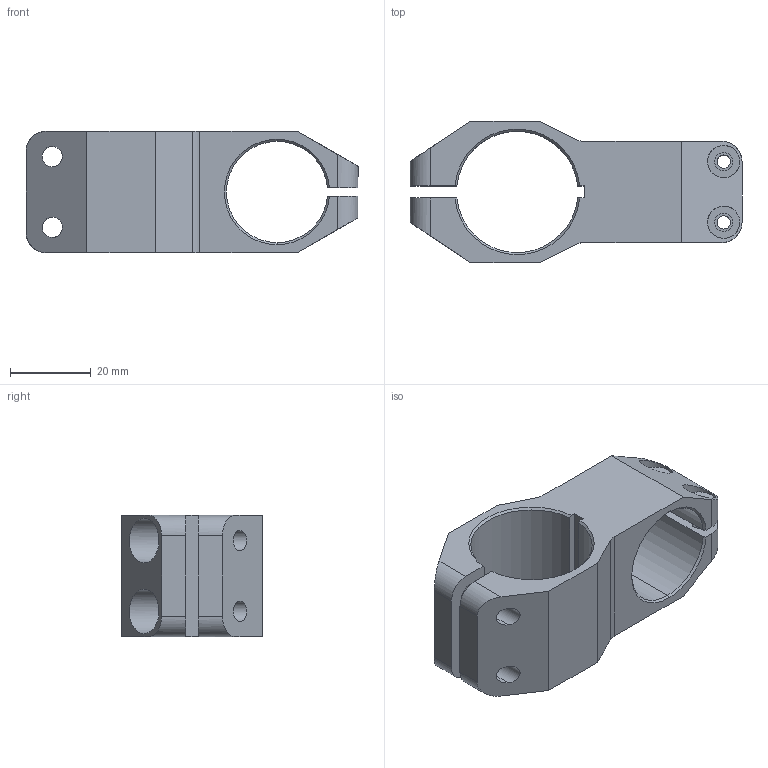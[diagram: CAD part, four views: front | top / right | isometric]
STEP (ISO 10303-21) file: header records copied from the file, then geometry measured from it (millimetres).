
FILE_DESCRIPTION (( 'STEP AP203' ), '1' );
FILE_NAME ('SMBT-4030.STEP', '2024-09-06T07:42:44', ( '' ), ( '' ), 'SwSTEP 2.0', 'SolidWorks 2018', '' );
FILE_SCHEMA (( 'CONFIG_CONTROL_DESIGN' ));
Length unit declared in the file: millimetre
Products named in the file (1): SMBT-4030
Bounding box: 82 x 35 x 30 mm (x, y, z)
Volume: 27267.4 mm3; surface area: 14192.9 mm2
Topology: 1 solids, 1 shells, 76 faces, 206 edges, 136 vertices
Faces by surface type: cylinder 39, plane 27, cone 10
Entity records: 2523 total; most frequent: CARTESIAN_POINT 527, ORIENTED_EDGE 412, DIRECTION 388, EDGE_CURVE 206, AXIS2_PLACEMENT_3D 141, VERTEX_POINT 136, LINE 106, VECTOR 106
